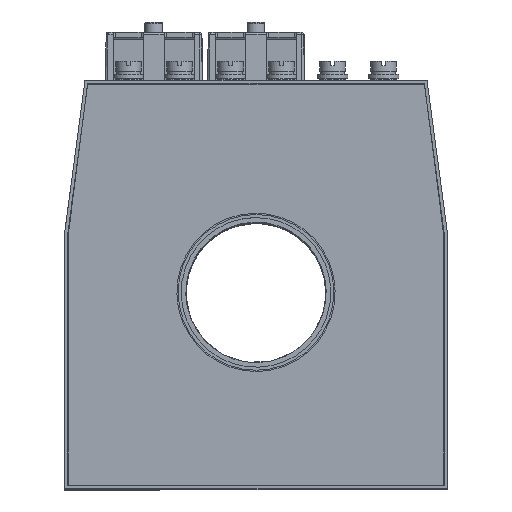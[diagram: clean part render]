
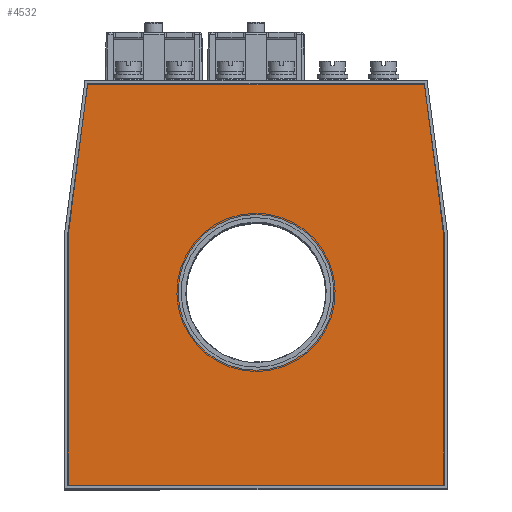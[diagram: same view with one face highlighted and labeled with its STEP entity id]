
A CAD part, top view. The second image highlights one B-rep face of the part: STEP entity #4532.
In plain terms, the highlighted planar face has unit normal (0, 0, 1).
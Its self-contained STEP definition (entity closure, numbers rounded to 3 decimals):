
#4532=ADVANCED_FACE('',(#7993,#7995),#7997,.T.);
#7993=FACE_BOUND('',#7994,.T.);
#7994=EDGE_LOOP('',(#9418,#9419,#9420,#9421,#9422,#9423));
#7995=FACE_BOUND('',#7996,.T.);
#7996=EDGE_LOOP('',(#9424));
#7997=PLANE('',#7998);
#7998=AXIS2_PLACEMENT_3D('',#7999,#8000,#8001);
#7999=CARTESIAN_POINT('',(0.,0.,5.));
#8000=DIRECTION('',(0.,0.,1.));
#8001=DIRECTION('',(1.,0.,0.));
#9418=ORIENTED_EDGE('',*,*,#10137,.T.);
#9419=ORIENTED_EDGE('',*,*,#10138,.T.);
#9420=ORIENTED_EDGE('',*,*,#10139,.T.);
#9421=ORIENTED_EDGE('',*,*,#10140,.T.);
#9422=ORIENTED_EDGE('',*,*,#10141,.T.);
#9423=ORIENTED_EDGE('',*,*,#10142,.T.);
#9424=ORIENTED_EDGE('',*,*,#10143,.T.);
#10137=EDGE_CURVE('',#11321,#11322,#11323,.T.);
#10138=EDGE_CURVE('',#11322,#11324,#11325,.T.);
#10139=EDGE_CURVE('',#11324,#11326,#11327,.T.);
#10140=EDGE_CURVE('',#11326,#11328,#11329,.T.);
#10141=EDGE_CURVE('',#11328,#11330,#11331,.T.);
#10142=EDGE_CURVE('',#11330,#11321,#11332,.T.);
#10143=EDGE_CURVE('',#11333,#11333,#11334,.F.);
#11321=VERTEX_POINT('',#14358);
#11322=VERTEX_POINT('',#14359);
#11323=LINE('',#14360,#14361);
#11324=VERTEX_POINT('',#14363);
#11325=LINE('',#14364,#14365);
#11326=VERTEX_POINT('',#14367);
#11327=LINE('',#14368,#14369);
#11328=VERTEX_POINT('',#14371);
#11329=LINE('',#14372,#14373);
#11330=VERTEX_POINT('',#14375);
#11331=LINE('',#14376,#14377);
#11332=LINE('',#14379,#14380);
#11333=VERTEX_POINT('',#14382);
#11334=CIRCLE('',#14383,30.5);
#14358=CARTESIAN_POINT('',(-73.5,19.815,5.));
#14359=CARTESIAN_POINT('',(-73.5,-78.5,5.));
#14360=CARTESIAN_POINT('',(-73.5,19.815,5.));
#14361=VECTOR('',#14362,1.);
#14362=DIRECTION('',(0.,-1.,0.));
#14363=CARTESIAN_POINT('',(73.5,-78.5,5.));
#14364=CARTESIAN_POINT('',(-73.5,-78.5,5.));
#14365=VECTOR('',#14366,1.);
#14366=DIRECTION('',(1.,0.,0.));
#14367=CARTESIAN_POINT('',(73.5,19.815,5.));
#14368=CARTESIAN_POINT('',(73.5,-78.5,5.));
#14369=VECTOR('',#14370,1.);
#14370=DIRECTION('',(0.,1.,0.));
#14371=CARTESIAN_POINT('',(66.,78.5,5.));
#14372=CARTESIAN_POINT('',(73.5,19.815,5.));
#14373=VECTOR('',#14374,1.);
#14374=DIRECTION('',(-0.127,0.992,0.));
#14375=CARTESIAN_POINT('',(-66.,78.5,5.));
#14376=CARTESIAN_POINT('',(66.,78.5,5.));
#14377=VECTOR('',#14378,1.);
#14378=DIRECTION('',(-1.,0.,0.));
#14379=CARTESIAN_POINT('',(-66.,78.5,5.));
#14380=VECTOR('',#14381,1.);
#14381=DIRECTION('',(-0.127,-0.992,0.));
#14382=CARTESIAN_POINT('',(30.5,-3.,5.));
#14383=AXIS2_PLACEMENT_3D('',#14384,#14385,#14386);
#14384=CARTESIAN_POINT('',(0.,-3.,5.));
#14385=DIRECTION('',(0.,0.,1.));
#14386=DIRECTION('',(1.,0.,0.));
